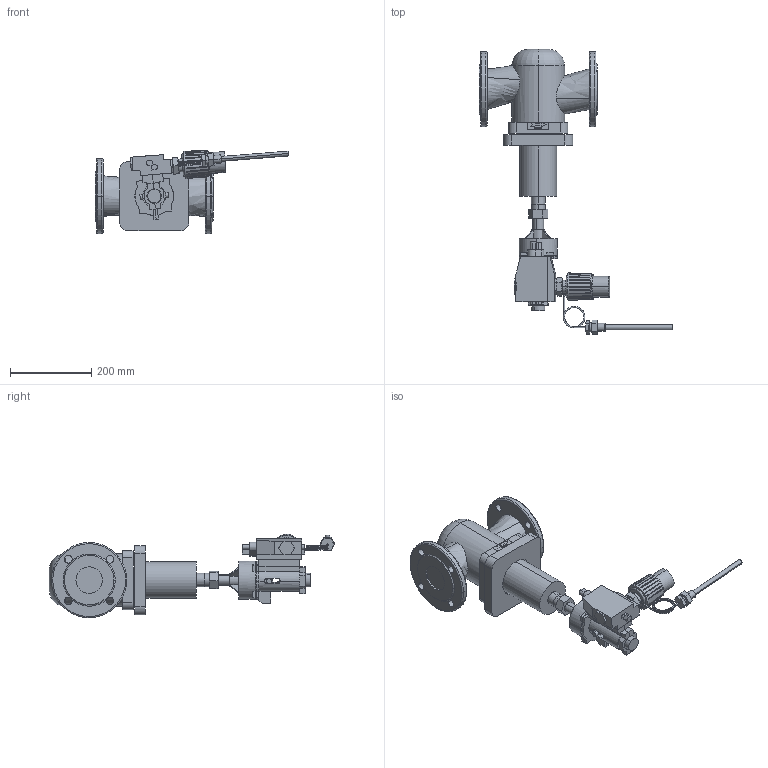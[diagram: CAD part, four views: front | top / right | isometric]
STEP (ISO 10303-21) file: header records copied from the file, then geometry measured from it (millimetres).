
FILE_DESCRIPTION (( 'STEP AP203' ), '1' );
FILE_NAME ('2111(2114)_SS_DIN_065_025_EN-JS1049_B2_STD_2212_dn12-190.STEP', '2010-03-09T13:16:03', ( '' ), ( '' ), 'SwSTEP 2.0', 'SolidWorks 2006303', '' );
FILE_SCHEMA (( 'CONFIG_CONTROL_DESIGN' ));
Length unit declared in the file: millimetre
Products named in the file (1): 2111(2114)_SS_DIN_065_025_EN-JS1049_B2_STD_2212_dn12-190
Bounding box: 475.65 x 701.85 x 205.16 mm (x, y, z)
Surface area: 549264.8 mm2 (no closed solid volume)
Topology: 0 solids, 15 shells, 432 faces, 1419 edges, 1000 vertices
Faces by surface type: plane 260, cylinder 106, cone 31, torus 20, bspline 15
Entity records: 18500 total; most frequent: CARTESIAN_POINT 6198, DIRECTION 2480, ORIENTED_EDGE 2368, EDGE_CURVE 1419, VERTEX_POINT 1000, VECTOR 842, LINE 842, AXIS2_PLACEMENT_3D 819
